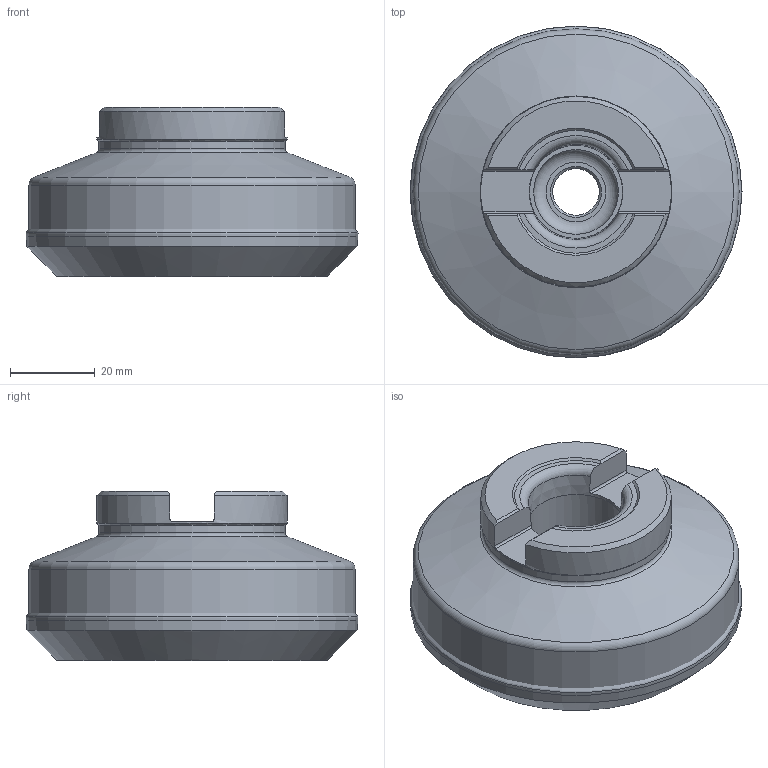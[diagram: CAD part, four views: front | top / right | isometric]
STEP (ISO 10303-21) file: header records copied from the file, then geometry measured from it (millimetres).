
FILE_DESCRIPTION(/* description */ (''),/* implementation_level */ '2;1');
FILE_NAME(/* name */ '637721700061664373.stp',/* time_stamp */ '2021-11-10T19:40:18+08:00',/* author */ (''),/* organization */ (''),/* preprocessor_version */ 'ST-DEVELOPER v16.7',/* originating_system */ 'SIEMENS PLM Software NX 12.0',/* authorisation */ '');
FILE_SCHEMA (('AUTOMOTIVE_DESIGN { 1 0 10303 214 3 1 1 1 }'));
Length unit declared in the file: millimetre
Products named in the file (2): 637721700029983218_SNEG1506ANR-GM; 637721700012873186_FMA11-063-A22-SN15-05C_S
Assembly tree (5 placements, depth 2):
  637721700012873186_FMA11-063-A22-SN15-05C_S
    637721700029983218_SNEG1506ANR-GM  x5
Bounding box: 78.35 x 78.35 x 40 mm (x, y, z)
Volume: 143358.4 mm3; surface area: 27788.7 mm2
Topology: 2 solids, 2 shells, 78 faces, 178 edges, 106 vertices
Faces by surface type: revolution 22, plane 20, torus 13, cone 12, cylinder 11
Full cylindrical faces by diameter (mm): 11 x1, 22 x1, 24 x1, 43.755 x1, 44 x1, 45 x1, 77 x1
Entity records: 3889 total; most frequent: CARTESIAN_POINT 2174, DIRECTION 304, ORIENTED_EDGE 240, EDGE_LOOP 130, AXIS2_PLACEMENT_3D 129, EDGE_CURVE 120, FACE_BOUND 106, VERTEX_POINT 96
